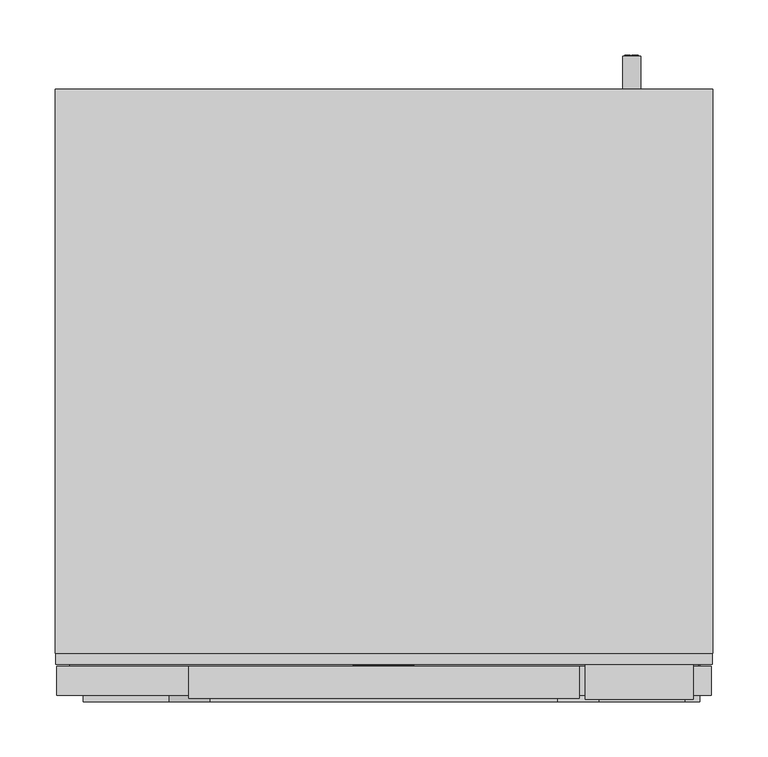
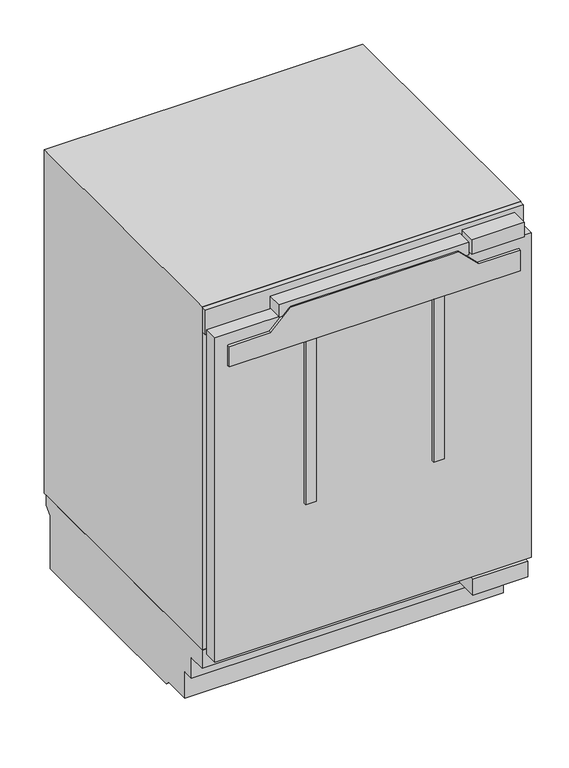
"""IFC4 building model written with IfcOpenShell, lengths in millimetres: proxy geometry, 12690480_GB_KU7015D : 36701510_GB_12690480_KU7015D."""

from ifc_helpers import new_model, si_unit, point, frame, frame_2d, origin, origin_with_axes, place, context, project, spatial, polyline, circle_curve, ellipse_curve, trimmed, segment, composite_curve, outline, extrude, faceted_brep, source, transform, mapped, element, save
from ifc_brep_helpers import plane_surface, cylinder_surface, revolved_surface, extruded_surface, advanced_brep


def specialty_equipment_b4d9bc3e(model_context):
    return source(origin(), model_context, "Body", "SolidModel", [
        extrude(outline(polyline([(795.9349293, -28.017), (795.9349293, -26.928), (789.9139293, -26.928), (789.9139293, -28.017), (788.4019293, -28.017), (788.4019293, -24.057), (789.9139293, -24.057), (789.9139293, -25.137), (793.7360541, -25.137), (788.4019293, -21.114), (793.8421516, -17.073), (789.9139293, -17.073), (789.9139293, -18.18), (788.4019293, -18.18), (788.4019293, -10.998), (789.9139293, -10.998), (789.9139293, -12.141), (795.9349293, -12.141), (795.9349293, -10.998), (797.4019293, -10.998), (797.4019293, -16.479), (794.0269293, -19.107), (797.4019293, -21.744), (797.4019293, -28.017), (795.9349293, -28.017)])), frame((0.0, 33.1, 0.0), z_axis=(0.0, 1.0, 0.0), x_axis=(0.0, 0.0, 1.0)), (0.0, 0.0, 1.0), 1.0),
        extrude(outline(polyline([(795.9349293, 8.505), (795.9349293, 9.585), (789.9139293, 9.585), (789.9139293, 8.505), (788.4019293, 8.505), (788.4019293, 15.804), (789.9139293, 15.804), (789.9139293, 14.697), (797.4019293, 14.697), (797.4019293, 8.505), (795.9349293, 8.505)])), frame((0.0, 33.1, 0.0), z_axis=(0.0, 1.0, 0.0), x_axis=(0.0, 0.0, 1.0)), (0.0, 0.0, 1.0), 1.0),
        extrude(outline(polyline([(796.8709293, -7.857), (795.4129293, -7.173), (796.8349293, -4.122), (798.2929293, -4.797), (796.8709293, -7.857)])), frame((0.0, 33.1, 0.0), z_axis=(0.0, 1.0, 0.0), x_axis=(0.0, 0.0, 1.0)), (0.0, 0.0, 1.0), 1.0),
        extrude(outline(polyline([(795.2149293, -10.08), (793.6039293, -10.08), (793.6039293, -9.009), (789.9139293, -9.009), (789.9139293, -10.08), (788.4019293, -10.08), (788.4019293, -2.979), (789.9139293, -2.979), (789.9139293, -4.023), (795.2149293, -4.023), (795.2149293, -10.08)])), frame((0.0, 33.1, 0.0), z_axis=(0.0, 1.0, 0.0), x_axis=(0.0, 0.0, 1.0)), (0.0, 0.0, 1.0), 1.0),
        advanced_brep(
        [(1.98, 33.1, 790.5349293), (1.98, 33.1, 791.4439293), (8.001, 33.1, 791.4439293), (-2.475, 33.1, 791.4439293), (0.0, 33.1, 788.4019293), (7.848, 33.1, 790.5349293), (5.13, 33.1, 790.5349293), (2.988, 33.1, 789.5269293), (1.98, 33.1, 792.5959293), (1.98, 33.1, 793.5769293), (3.519, 33.1, 793.5769293), (3.519, 33.1, 792.5959293), (1.98, 34.1, 790.5349293), (2.988, 34.1, 789.5269293), (5.13, 34.1, 790.5349293), (7.848, 34.1, 790.5349293), (0.0, 34.1, 788.4019293), (-2.475, 34.1, 791.4439293), (8.001, 34.1, 791.4439293), (1.98, 34.1, 791.4439293), (1.98, 34.1, 792.5959293), (3.519, 34.1, 792.5959293), (3.519, 34.1, 793.5769293), (1.98, 34.1, 793.5769293)],
        [
            (0, 1),
            (1, 2),
            (2, 3, ellipse_curve(frame((2.763, 33.1, 791.4439293), z_axis=(0.0, -1.0, 0.0), x_axis=(-1.0, 0.0, 0.0)), 5.238, 4.329)),
            (3, 4, circle_curve(frame((1.0080491, 33.1, 791.7499293), z_axis=(0.0, -1.0, 0.0), x_axis=(0.0, 0.0, -1.0)), 3.4964649)),
            (4, 5, circle_curve(frame((2.6581428, 33.1, 794.1259293), z_axis=(0.0, -1.0, 0.0), x_axis=(0.0, 0.0, -1.0)), 6.3110933)),
            (5, 6),
            (6, 7, circle_curve(frame((3.4279412, 33.1, 791.3719293), z_axis=(0.0, 1.0, 0.0), x_axis=(0.0, 0.0, -1.0)), 1.896727)),
            (7, 0, circle_curve(frame((2.988, 33.1, 790.5349293), z_axis=(0.0, 1.0, 0.0), x_axis=(0.0, 0.0, -1.0)), 1.008)),
            (8, 9),
            (9, 10, circle_curve(frame((2.7495, 33.1, 793.5769293), z_axis=(0.0, 1.0, 0.0), x_axis=(0.0, 0.0, -1.0)), 0.7695)),
            (10, 11),
            (11, 8),
            (12, 13, circle_curve(frame((2.988, 34.1, 790.5349293), z_axis=(0.0, -1.0, 0.0), x_axis=(0.0, 0.0, -1.0)), 1.008)),
            (13, 14, circle_curve(frame((3.4279412, 34.1, 791.3719293), z_axis=(0.0, -1.0, 0.0), x_axis=(0.0, 0.0, -1.0)), 1.896727)),
            (14, 15),
            (15, 16, circle_curve(frame((2.6581428, 34.1, 794.1259293), z_axis=(0.0, 1.0, 0.0), x_axis=(0.0, 0.0, -1.0)), 6.3110933)),
            (16, 17, circle_curve(frame((1.0080491, 34.1, 791.7499293), z_axis=(0.0, 1.0, 0.0), x_axis=(0.0, 0.0, -1.0)), 3.4964649)),
            (17, 18, ellipse_curve(frame((2.763, 34.1, 791.4439293), z_axis=(0.0, 1.0, 0.0), x_axis=(-1.0, 0.0, 0.0)), 5.238, 4.329)),
            (18, 19),
            (19, 12),
            (20, 21),
            (21, 22),
            (22, 23, circle_curve(frame((2.7495, 34.1, 793.5769293), z_axis=(0.0, -1.0, 0.0), x_axis=(0.0, 0.0, -1.0)), 0.7695)),
            (23, 20),
            (0, 12),
            (19, 1),
            (18, 2),
            (5, 15),
            (14, 6),
            (17, 3),
            (13, 7),
            (16, 4),
            (8, 20),
            (23, 9),
            (22, 10),
            (21, 11),
        ],
        [
            plane_surface(frame((1.98, 33.1, 791.4439293), z_axis=(0.0, -1.0, 0.0), x_axis=(0.0, 0.0, 1.0))),
            plane_surface(frame((1.98, 34.1, 791.4439293), z_axis=(0.0, 1.0, 0.0), x_axis=(0.0, 0.0, -1.0))),
            plane_surface(frame((1.98, 33.1, 790.5349293), z_axis=(1.0, 0.0, 0.0), x_axis=(0.0, 1.0, 0.0))),
            plane_surface(frame((1.98, 33.1, 791.4439293), z_axis=(0.0, 0.0, -1.0), x_axis=(0.0, 1.0, 0.0))),
            plane_surface(frame((7.848, 33.1, 790.5349293), z_axis=(0.0, 0.0, 1.0), x_axis=(0.0, 1.0, 0.0))),
            extruded_surface(trimmed(ellipse_curve(frame((2.763, 35.1, 791.4439293), z_axis=(0.0, -1.0, 0.0), x_axis=(-1.0, 0.0, 0.0)), 5.238, 4.329), [point((8.001, 35.1, 791.4439293))], [point((-2.475, 35.1, 791.4439293))], True, "CARTESIAN"), (0.0, -1.0, 0.0), 1.0),
            revolved_surface(polyline([(3.4279412, 34.1, 789.4752023), (3.4279412, 33.1, 789.4752023)]), (3.4279412, 34.1, 791.3719293), (0.0, 1.0, 0.0)),
            revolved_surface(polyline([(2.988, 34.1, 789.5269293), (2.988, 33.1, 789.5269293)]), (2.988, 34.1, 790.5349293), (0.0, 1.0, 0.0)),
            cylinder_surface(frame((1.0080491, 34.1, 791.7499293), z_axis=(0.0, -1.0, 0.0), x_axis=(0.0, 0.0, -1.0)), 3.4964649),
            cylinder_surface(frame((2.6581428, 34.1, 794.1259293), z_axis=(0.0, -1.0, 0.0), x_axis=(0.0, 0.0, -1.0)), 6.3110933),
            plane_surface(frame((1.98, 33.1, 792.5959293), z_axis=(1.0, 0.0, 0.0), x_axis=(0.0, 1.0, 0.0))),
            revolved_surface(polyline([(2.7495, 34.1, 792.8074293), (2.7495, 33.1, 792.8074293)]), (2.7495, 34.1, 793.5769293), (0.0, 1.0, 0.0)),
            plane_surface(frame((3.519, 33.1, 793.5769293), z_axis=(-1.0, 0.0, 0.0), x_axis=(0.0, 1.0, 0.0))),
            plane_surface(frame((3.519, 33.1, 792.5959293), z_axis=(0.0, 0.0, 1.0), x_axis=(0.0, 1.0, 0.0))),
        ],
        [
            (0, [[1, 2, 3, 4, 5, 6, 7, 8], [9, 10, 11, 12]]),
            (1, [[13, 14, 15, 16, 17, 18, 19, 20], [21, 22, 23, 24]]),
            (2, [[-1, 25, -20, 26]]),
            (3, [[-2, -26, -19, 27]]),
            (4, [[-6, 28, -15, 29]]),
            (5, [[-3, -27, -18, 30]]),
            (6, [[-7, -29, -14, 31]]),
            (7, [[-8, -31, -13, -25]]),
            (8, [[-4, -30, -17, 32]]),
            (9, [[-5, -32, -16, -28]]),
            (10, [[-9, 33, -24, 34]]),
            (11, [[-10, -34, -23, 35]]),
            (12, [[-11, -35, -22, 36]]),
            (13, [[-12, -36, -21, -33]]),
        ],
    ),
        advanced_brep(
        [(20.763, 33.1, 790.5349293), (20.763, 33.1, 791.4439293), (26.784, 33.1, 791.4439293), (16.308, 33.1, 791.4439293), (18.783, 33.1, 788.4019293), (26.631, 33.1, 790.5349293), (23.913, 33.1, 790.5349293), (21.771, 33.1, 789.5269293), (20.763, 33.1, 792.5959293), (20.763, 33.1, 793.5769293), (22.302, 33.1, 793.5769293), (22.302, 33.1, 792.5959293), (20.763, 34.1, 790.5349293), (21.771, 34.1, 789.5269293), (23.913, 34.1, 790.5349293), (26.631, 34.1, 790.5349293), (18.783, 34.1, 788.4019293), (16.308, 34.1, 791.4439293), (26.784, 34.1, 791.4439293), (20.763, 34.1, 791.4439293), (20.763, 34.1, 792.5959293), (22.302, 34.1, 792.5959293), (22.302, 34.1, 793.5769293), (20.763, 34.1, 793.5769293)],
        [
            (0, 1),
            (1, 2),
            (2, 3, ellipse_curve(frame((21.546, 33.1, 791.4439293), z_axis=(0.0, -1.0, 0.0), x_axis=(-1.0, 0.0, 0.0)), 5.238, 4.329)),
            (3, 4, circle_curve(frame((19.7910491, 33.1, 791.7499293), z_axis=(0.0, -1.0, 0.0), x_axis=(0.0, 0.0, -1.0)), 3.4964649)),
            (4, 5, circle_curve(frame((21.4411428, 33.1, 794.1259293), z_axis=(0.0, -1.0, 0.0), x_axis=(0.0, 0.0, -1.0)), 6.3110933)),
            (5, 6),
            (6, 7, circle_curve(frame((22.2109412, 33.1, 791.3719293), z_axis=(0.0, 1.0, 0.0), x_axis=(0.0, 0.0, -1.0)), 1.896727)),
            (7, 0, circle_curve(frame((21.771, 33.1, 790.5349293), z_axis=(0.0, 1.0, 0.0), x_axis=(0.0, 0.0, -1.0)), 1.008)),
            (8, 9),
            (9, 10, circle_curve(frame((21.5325, 33.1, 793.5769293), z_axis=(0.0, 1.0, 0.0), x_axis=(0.0, 0.0, -1.0)), 0.7695)),
            (10, 11),
            (11, 8),
            (12, 13, circle_curve(frame((21.771, 34.1, 790.5349293), z_axis=(0.0, -1.0, 0.0), x_axis=(0.0, 0.0, -1.0)), 1.008)),
            (13, 14, circle_curve(frame((22.2109412, 34.1, 791.3719293), z_axis=(0.0, -1.0, 0.0), x_axis=(0.0, 0.0, -1.0)), 1.896727)),
            (14, 15),
            (15, 16, circle_curve(frame((21.4411428, 34.1, 794.1259293), z_axis=(0.0, 1.0, 0.0), x_axis=(0.0, 0.0, -1.0)), 6.3110933)),
            (16, 17, circle_curve(frame((19.7910491, 34.1, 791.7499293), z_axis=(0.0, 1.0, 0.0), x_axis=(0.0, 0.0, -1.0)), 3.4964649)),
            (17, 18, ellipse_curve(frame((21.546, 34.1, 791.4439293), z_axis=(0.0, 1.0, 0.0), x_axis=(-1.0, 0.0, 0.0)), 5.238, 4.329)),
            (18, 19),
            (19, 12),
            (20, 21),
            (21, 22),
            (22, 23, circle_curve(frame((21.5325, 34.1, 793.5769293), z_axis=(0.0, -1.0, 0.0), x_axis=(0.0, 0.0, -1.0)), 0.7695)),
            (23, 20),
            (0, 12),
            (19, 1),
            (18, 2),
            (5, 15),
            (14, 6),
            (17, 3),
            (13, 7),
            (16, 4),
            (8, 20),
            (23, 9),
            (22, 10),
            (21, 11),
        ],
        [
            plane_surface(frame((20.763, 33.1, 791.4439293), z_axis=(0.0, -1.0, 0.0), x_axis=(0.0, 0.0, 1.0))),
            plane_surface(frame((20.763, 34.1, 791.4439293), z_axis=(0.0, 1.0, 0.0), x_axis=(0.0, 0.0, -1.0))),
            plane_surface(frame((20.763, 33.1, 790.5349293), z_axis=(1.0, 0.0, 0.0), x_axis=(0.0, 1.0, 0.0))),
            plane_surface(frame((20.763, 33.1, 791.4439293), z_axis=(0.0, 0.0, -1.0), x_axis=(0.0, 1.0, 0.0))),
            plane_surface(frame((26.631, 33.1, 790.5349293), z_axis=(0.0, 0.0, 1.0), x_axis=(0.0, 1.0, 0.0))),
            extruded_surface(trimmed(ellipse_curve(frame((21.546, 35.1, 791.4439293), z_axis=(0.0, -1.0, 0.0), x_axis=(-1.0, 0.0, 0.0)), 5.238, 4.329), [point((26.784, 35.1, 791.4439293))], [point((16.308, 35.1, 791.4439293))], True, "CARTESIAN"), (0.0, -1.0, 0.0), 1.0),
            revolved_surface(polyline([(22.2109412, 34.1, 789.4752023), (22.2109412, 33.1, 789.4752023)]), (22.2109412, 34.1, 791.3719293), (0.0, 1.0, 0.0)),
            revolved_surface(polyline([(21.771, 34.1, 789.5269293), (21.771, 33.1, 789.5269293)]), (21.771, 34.1, 790.5349293), (0.0, 1.0, 0.0)),
            cylinder_surface(frame((19.7910491, 34.1, 791.7499293), z_axis=(0.0, -1.0, 0.0), x_axis=(0.0, 0.0, -1.0)), 3.4964649),
            cylinder_surface(frame((21.4411428, 34.1, 794.1259293), z_axis=(0.0, -1.0, 0.0), x_axis=(0.0, 0.0, -1.0)), 6.3110933),
            plane_surface(frame((20.763, 33.1, 792.5959293), z_axis=(1.0, 0.0, 0.0), x_axis=(0.0, 1.0, 0.0))),
            revolved_surface(polyline([(21.5325, 34.1, 792.8074293), (21.5325, 33.1, 792.8074293)]), (21.5325, 34.1, 793.5769293), (0.0, 1.0, 0.0)),
            plane_surface(frame((22.302, 33.1, 793.5769293), z_axis=(-1.0, 0.0, 0.0), x_axis=(0.0, 1.0, 0.0))),
            plane_surface(frame((22.302, 33.1, 792.5959293), z_axis=(0.0, 0.0, 1.0), x_axis=(0.0, 1.0, 0.0))),
        ],
        [
            (0, [[1, 2, 3, 4, 5, 6, 7, 8], [9, 10, 11, 12]]),
            (1, [[13, 14, 15, 16, 17, 18, 19, 20], [21, 22, 23, 24]]),
            (2, [[-1, 25, -20, 26]]),
            (3, [[-2, -26, -19, 27]]),
            (4, [[-6, 28, -15, 29]]),
            (5, [[-3, -27, -18, 30]]),
            (6, [[-7, -29, -14, 31]]),
            (7, [[-8, -31, -13, -25]]),
            (8, [[-4, -30, -17, 32]]),
            (9, [[-5, -32, -16, -28]]),
            (10, [[-9, 33, -24, 34]]),
            (11, [[-10, -34, -23, 35]]),
            (12, [[-11, -35, -22, 36]]),
            (13, [[-12, -36, -21, -33]]),
        ],
    ),
        extrude(outline(polyline([(298.0, 34.0937347), (-298.0, 34.0937347), (-298.0, 44.0), (298.0, 44.0), (298.0, 34.0937347)])), frame((0.0, 0.0, 768.7051238), z_axis=(0.0, 0.0, 1.0), x_axis=(1.0, 0.0, 0.0)), (0.0, 0.0, 1.0), 48.9938508),
        faceted_brep([(-298.5, 550.1, 137.8999939), (-298.5, 550.1, 117.6051112), (-298.5, 537.6, 105.1051112), (-298.5, 537.6, 0.0), (-298.5, 161.2567793, 0.0), (-298.5, 152.9391747, 8.3176046), (-298.5, 100.0, 8.3176046), (-298.5, 100.0, 60.7725754), (-298.5, 79.0216446, 60.7725754), (-298.5, 79.0216446, 101.8184894), (-298.5, 44.0, 101.8184894), (-298.5, 44.0, 137.8999939), (298.5, 550.1, 137.8999939), (298.5, 44.0, 137.8999939), (298.5, 44.0, 101.8184894), (298.5, 79.0216446, 101.8184894), (298.5, 79.0216446, 60.7725754), (298.5, 100.0, 60.7725754), (298.5, 100.0, 8.3176046), (298.5, 152.9391747, 8.3176046), (298.5, 161.2567793, 0.0), (298.5, 537.6, 0.0), (298.5, 537.6, 105.1051112), (298.5, 550.1, 117.6051112), (296.7000122, 463.8596389, 0.0), (256.5957336, 463.8596389, 0.0), (256.5957336, 399.1975098, 0.0), (296.7000122, 399.1975098, 0.0), (-296.7000122, 463.8596389, 0.0), (-296.7000122, 399.1975098, 0.0), (-256.5957336, 399.1975098, 0.0), (-256.5957336, 463.8596389, 0.0), (296.7000122, 463.8596389, 8.7371401), (296.7000122, 399.1975098, 8.7371401), (256.5957336, 399.1975098, 8.7371401), (256.5957336, 463.8596389, 8.7371401), (-296.7000122, 463.8596389, 8.7371401), (-256.5957336, 463.8596389, 8.7371401), (-256.5957336, 399.1975098, 8.7371401), (-296.7000122, 399.1975098, 8.7371401)], [[[0, 1, 2, 3, 4, 5, 6, 7, 8, 9, 10, 11]], [[12, 13, 14, 15, 16, 17, 18, 19, 20, 21, 22, 23]], [[0, 11, 13, 12]], [[11, 10, 14, 13]], [[10, 9, 15, 14]], [[9, 8, 16, 15]], [[8, 7, 17, 16]], [[7, 6, 18, 17]], [[6, 5, 19, 18]], [[5, 4, 20, 19]], [[4, 3, 21, 20], [24, 25, 26, 27], [28, 29, 30, 31]], [[3, 2, 22, 21]], [[2, 1, 23, 22]], [[1, 0, 12, 23]], [[32, 33, 34, 35]], [[36, 37, 38, 39]], [[32, 35, 25, 24]], [[35, 34, 26, 25]], [[34, 33, 27, 26]], [[33, 32, 24, 27]], [[36, 39, 29, 28]], [[39, 38, 30, 29]], [[38, 37, 31, 30]], [[37, 36, 28, 31]]]),
        faceted_brep([(298.5, 44.0, 819.0), (298.5, 44.0, 137.8999939), (298.5, 556.2, 137.8999939), (298.5, 556.2, 819.0), (-298.5, 44.0, 819.0), (-298.5, 556.2, 819.0), (-298.5, 556.2, 137.8999939), (-298.5, 44.0, 137.8999939), (263.0, 44.0, 719.0), (263.0, 44.0, 150.0), (-263.0, 44.0, 150.0), (-263.0, 44.0, 719.0), (263.0, 510.8638012, 150.0), (263.0, 510.8638012, 719.0), (-263.0, 510.8638012, 719.0), (-263.0, 510.8638012, 150.0)], [[[0, 1, 2, 3]], [[4, 5, 6, 7]], [[1, 0, 4, 7], [8, 9, 10, 11]], [[2, 1, 7, 6]], [[3, 2, 6, 5]], [[0, 3, 5, 4]], [[12, 13, 14, 15]], [[13, 12, 9, 8]], [[14, 13, 8, 11]], [[15, 14, 11, 10]], [[12, 15, 10, 9]]]),
        extrude(outline(polyline([(263.0, 510.8638012), (263.0, 339.3), (-263.0, 339.3), (-263.0, 510.8638012), (263.0, 510.8638012)])), frame((0.0, 0.0, 150.0), z_axis=(0.0, 0.0, 1.0), x_axis=(1.0, 0.0, 0.0)), (0.0, 0.0, 1.0), 71.8999939),
        extrude(outline(composite_curve([segment(trimmed(circle_curve(frame_2d((-270.8532135, 136.0)), 15.7049948), [point((-286.5582083, 136.0))], [point((-255.1482187, 136.0))], False, "CARTESIAN"), True, "CONTINUOUS"), segment(trimmed(circle_curve(frame_2d((-270.8532135, 136.0)), 15.7049948), [point((-255.1482187, 136.0))], [point((-286.5582083, 136.0))], False, "CARTESIAN"), True, "CONTINUOUS")], self_intersect=False)), origin_with_axes(), (0.0, 0.0, 1.0), 8.3176046),
        extrude(outline(composite_curve([segment(trimmed(circle_curve(frame_2d((270.8532135, 136.0)), 15.7049948), [point((286.5582083, 136.0))], [point((255.1482187, 136.0))], False, "CARTESIAN"), True, "CONTINUOUS"), segment(trimmed(circle_curve(frame_2d((270.8532135, 136.0)), 15.7049948), [point((255.1482187, 136.0))], [point((286.5582083, 136.0))], False, "CARTESIAN"), True, "CONTINUOUS")], self_intersect=False)), origin_with_axes(), (0.0, 0.0, 1.0), 8.3176046),
        extrude(outline(composite_curve([segment(trimmed(circle_curve(frame_2d((-275.822369, 437.7)), 16.0), [point((-291.822369, 437.7))], [point((-259.822369, 437.7))], False, "CARTESIAN"), True, "CONTINUOUS"), segment(trimmed(circle_curve(frame_2d((-275.822369, 437.7)), 16.0), [point((-259.822369, 437.7))], [point((-291.822369, 437.7))], False, "CARTESIAN"), True, "CONTINUOUS")], self_intersect=False)), origin_with_axes(), (0.0, 0.0, 1.0), 8.3176046),
        extrude(outline(composite_curve([segment(trimmed(circle_curve(frame_2d((275.822369, 437.7)), 16.0), [point((259.822369, 437.7))], [point((291.822369, 437.7))], False, "CARTESIAN"), True, "CONTINUOUS"), segment(trimmed(circle_curve(frame_2d((275.822369, 437.7)), 16.0), [point((291.822369, 437.7))], [point((259.822369, 437.7))], False, "CARTESIAN"), True, "CONTINUOUS")], self_intersect=False)), origin_with_axes(), (0.0, 0.0, 1.0), 8.3176046),
        extrude(outline(composite_curve([segment(trimmed(circle_curve(frame_2d((144.2460785, 224.8152695)), 8.0), [point((144.2460785, 216.8152695))], [point((144.2460785, 232.8152695))], False, "CARTESIAN"), True, "CONTINUOUS"), segment(trimmed(circle_curve(frame_2d((144.2460785, 224.8152695)), 8.0), [point((144.2460785, 232.8152695))], [point((144.2460785, 216.8152695))], False, "CARTESIAN"), True, "CONTINUOUS")], self_intersect=False)), frame((0.0, 556.2, 0.0), z_axis=(0.0, 1.0, 0.0), x_axis=(0.0, 0.0, 1.0)), (0.0, 0.0, 1.0), 30.0),
        extrude(outline(polyline([(140.2460785, 230.7170777), (148.2825833, 230.7170777), (148.2825833, 224.9408399), (147.2780202, 224.9408399), (147.2780202, 229.7125146), (144.8921828, 229.7125146), (144.8921828, 225.1919806), (143.8876197, 225.1919806), (143.8876197, 229.7125146), (141.2506416, 229.7125146), (141.2506416, 224.8152695), (140.2460785, 224.8152695), (140.2460785, 230.7170777)])), frame((0.0, 586.2, 0.0), z_axis=(0.0, 1.0, 0.0), x_axis=(0.0, 0.0, 1.0)), (0.0, 0.0, 1.0), 1.0),
        extrude(outline(polyline([(140.2460785, 223.3084248), (148.2825833, 223.3084248), (148.2825833, 222.3038617), (141.2506416, 222.3038617), (141.2506416, 218.2856093), (140.2460785, 218.2856093), (140.2460785, 223.3084248)])), frame((0.0, 586.2, 0.0), z_axis=(0.0, 1.0, 0.0), x_axis=(0.0, 0.0, 1.0)), (0.0, 0.0, 1.0), 1.0),
        extrude(outline(polyline([(280.7999573, 2.0229698), (182.5283813, 2.0229698), (182.5283813, 44.0), (280.7999573, 44.0), (280.7999573, 2.0229698)])), frame((0.0, 0.0, 780.0), z_axis=(0.0, 0.0, 1.0), x_axis=(1.0, 0.0, 0.0)), (0.0, 0.0, 1.0), 28.7067261),
        extrude(outline(polyline([(297.0, 6.0), (-297.0, 6.0), (-297.0, 32.0), (297.0, 32.0), (297.0, 6.0)])), frame((0.0, 0.0, 136.0), z_axis=(0.0, 0.0, 1.0), x_axis=(1.0, 0.0, 0.0)), (0.0, 0.0, 1.0), 644.0),
        extrude(outline(polyline([(285.0, 44.0), (285.0, 32.0), (-285.0, 32.0), (-285.0, 44.0), (285.0, 44.0)])), frame((0.0, 0.0, 148.5030441), z_axis=(0.0, 0.0, 1.0), x_axis=(1.0, 0.0, 0.0)), (0.0, 0.0, 1.0), 615.9969559),
        extrude(outline(polyline([(804.6210938, 177.3252429), (804.6210938, -177.3251393), (780.0, -177.3252429), (780.0, 177.3252429), (804.6210938, 177.3252429)])), frame((0.0, 3.0, 0.0), z_axis=(0.0, 1.0, 0.0), x_axis=(0.0, 0.0, 1.0)), (0.0, 0.0, 1.0), 29.0),
        extrude(outline(polyline([(286.7815857, 0.0), (183.3378415, 0.0), (183.3378415, 44.0), (286.7815857, 44.0), (286.7815857, 0.0)])), frame((0.0, 0.0, 104.8), z_axis=(0.0, 0.0, 1.0), x_axis=(1.0, 0.0, 0.0)), (0.0, 0.0, 1.0), 31.2),
        extrude(outline(polyline([(757.315066, -195.1876874), (757.315066, -272.9755319), (716.8499888, -272.9755319), (716.8499888, 272.9755319), (757.315066, 272.9755319), (757.315066, 195.1876874), (794.938205, 157.5645484), (794.938205, -157.5645484), (757.315066, -195.1876874)])), frame((0.0, 0.0, 0.0), z_axis=(0.0, 1.0, 0.0), x_axis=(0.0, 0.0, 1.0)), (0.0, 0.0, 1.0), 6.0),
        extrude(outline(polyline([(-110.0, 0.0), (-130.0, 0.0), (-130.0, 6.0), (-110.0, 6.0), (-110.0, 0.0)])), frame((0.0, 0.0, 394.1054382), z_axis=(0.0, 0.0, 1.0), x_axis=(1.0, 0.0, 0.0)), (0.0, 0.0, 1.0), 322.7445505),
        extrude(outline(polyline([(130.0, 0.0), (110.0, 0.0), (110.0, 6.0), (130.0, 6.0), (130.0, 0.0)])), frame((0.0, 0.0, 394.1054382), z_axis=(0.0, 0.0, 1.0), x_axis=(1.0, 0.0, 0.0)), (0.0, 0.0, 1.0), 322.7445505),
    ])


if __name__ == "__main__":
    model = new_model("IFC4")
    model_context = context("Model", 3, world=origin())
    ifc_project = project(units=[si_unit("LENGTHUNIT", "METRE", prefix="MILLI")], contexts=[model_context])
    site = spatial("IfcSite", under=ifc_project)
    building = spatial("IfcBuilding", under=site)
    placement = place(None, origin())
    specialty_equipment_shape = specialty_equipment_b4d9bc3e(model_context)
    element("IfcBuildingElementProxy", 1, Name="12690480_GB_KU7015D : 36701510_GB_12690480_KU7015D", ObjectType="12690480_GB_KU7015D : 36701510_GB_12690480_KU7015D", at=placement, inside=building, context=model_context, shape_type="MappedRepresentation", body=[
        mapped(specialty_equipment_shape, transform((0.0, 0.0, 0.0), x_axis=(1.0, 0.0, 0.0), y_axis=(0.0, 1.0, 0.0), z_axis=(0.0, 0.0, 1.0))),
    ])
    save(model, "model.ifc")
